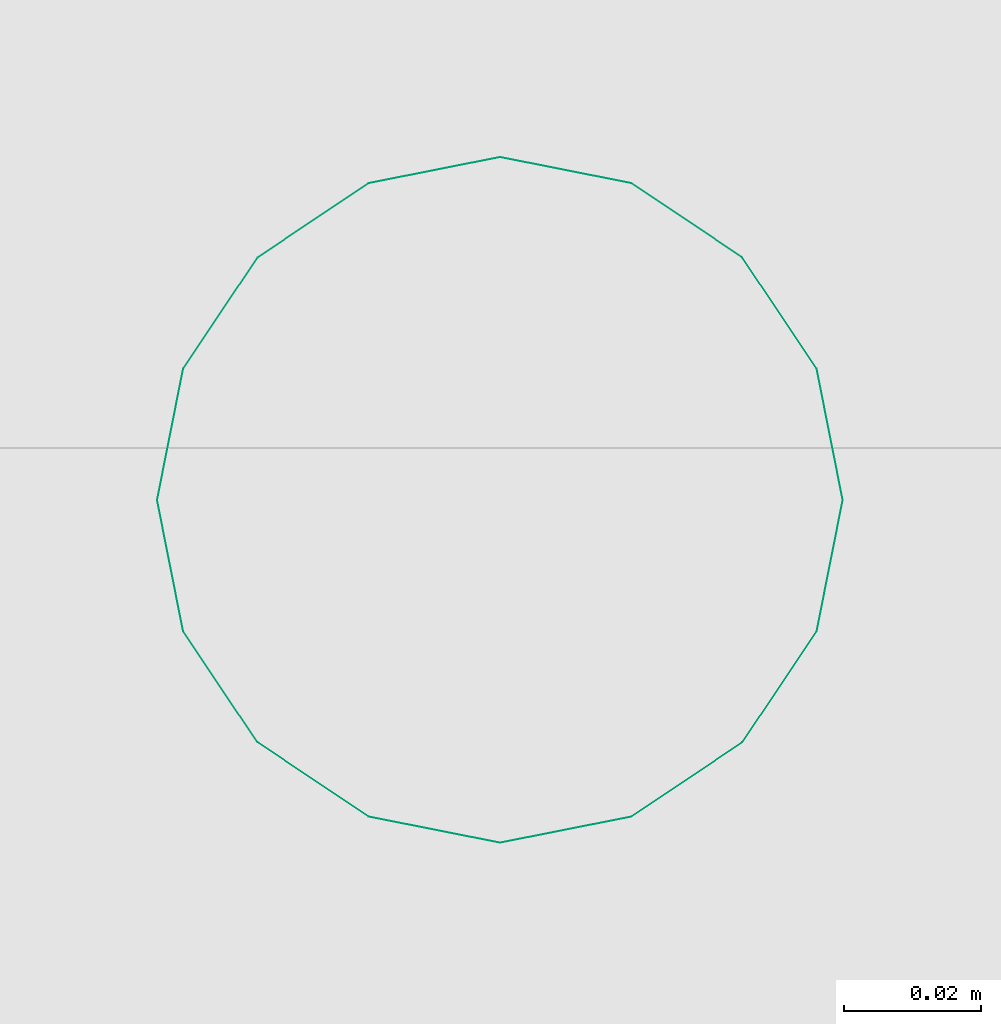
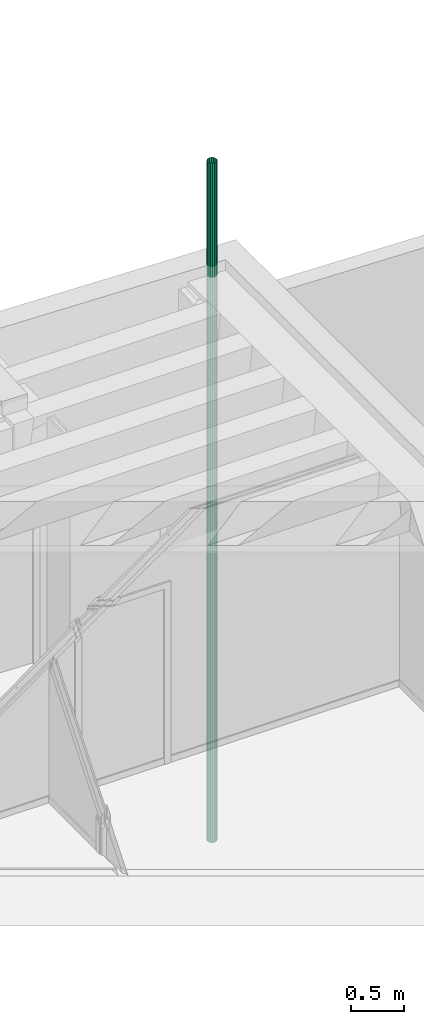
# One storey, part 69 of 106: 1 flow segment.
"""IFC2X3 building model written with IfcOpenShell, lengths in metres."""

from ifc_helpers import new_model, entity, si_unit, converted_unit, derived_unit, money_unit, direction, frame, origin_with_axes, place, context, subcontext, project, spatial, faceted_brep, material, type_object, element, save


model = new_model("IFC2X3")

# Units and contexts
model_context = context("Model", 3, precision=1e-05, world=origin_with_axes(), true_north=direction((0.0, 1.0)))
body_context = subcontext(model_context, "Body", "Model", "MODEL_VIEW", scale=1.0)
ifc_project = project(units=[si_unit("LENGTHUNIT", "METRE"), si_unit("AREAUNIT", "SQUARE_METRE"), si_unit("VOLUMEUNIT", "CUBIC_METRE"), si_unit("ABSORBEDDOSEUNIT", "GRAY"), si_unit("AMOUNTOFSUBSTANCEUNIT", "MOLE"), si_unit("DOSEEQUIVALENTUNIT", "SIEVERT"), si_unit("ELECTRICCAPACITANCEUNIT", "FARAD"), si_unit("ELECTRICCHARGEUNIT", "COULOMB"), si_unit("ELECTRICCONDUCTANCEUNIT", "SIEMENS"), si_unit("ELECTRICCURRENTUNIT", "AMPERE"), si_unit("ELECTRICRESISTANCEUNIT", "OHM"), si_unit("ELECTRICVOLTAGEUNIT", "VOLT"), si_unit("ENERGYUNIT", "JOULE"), si_unit("FORCEUNIT", "NEWTON"), si_unit("FREQUENCYUNIT", "HERTZ"), si_unit("ILLUMINANCEUNIT", "LUX"), si_unit("INDUCTANCEUNIT", "HENRY"), si_unit("LUMINOUSFLUXUNIT", "LUMEN"), si_unit("LUMINOUSINTENSITYUNIT", "CANDELA"), si_unit("MAGNETICFLUXDENSITYUNIT", "TESLA"), si_unit("MAGNETICFLUXUNIT", "WEBER"), si_unit("MASSUNIT", "GRAM"), converted_unit("PLANEANGLEUNIT", "degree", entity("IfcReal", 0.0174532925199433), si_unit("PLANEANGLEUNIT", "RADIAN"), dimensions=[0, 0, 0, 0, 0, 0, 0]), si_unit("POWERUNIT", "WATT"), si_unit("PRESSUREUNIT", "PASCAL"), si_unit("RADIOACTIVITYUNIT", "BECQUEREL"), si_unit("SOLIDANGLEUNIT", "STERADIAN"), si_unit("THERMODYNAMICTEMPERATUREUNIT", "KELVIN"), si_unit("TIMEUNIT", "SECOND"), derived_unit("ACCELERATIONUNIT", [(si_unit("LENGTHUNIT", "METRE"), 1), (si_unit("TIMEUNIT", "SECOND"), -2)]), derived_unit("ANGULARVELOCITYUNIT", [(converted_unit("PLANEANGLEUNIT", "degree", entity("IfcReal", 0.0174532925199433), si_unit("PLANEANGLEUNIT", "RADIAN"), dimensions=[0, 0, 0, 0, 0, 0, 0]), 1), (si_unit("TIMEUNIT", "SECOND"), -1)]), derived_unit("CURVATUREUNIT", [(converted_unit("PLANEANGLEUNIT", "degree", entity("IfcReal", 0.0174532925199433), si_unit("PLANEANGLEUNIT", "RADIAN"), dimensions=[0, 0, 0, 0, 0, 0, 0]), 1), (si_unit("LENGTHUNIT", "METRE"), -1)]), derived_unit("DYNAMICVISCOSITYUNIT", [(si_unit("PRESSUREUNIT", "PASCAL"), 1), (si_unit("TIMEUNIT", "SECOND"), 1)]), derived_unit("HEATFLUXDENSITYUNIT", [(si_unit("POWERUNIT", "WATT"), 1), (si_unit("LENGTHUNIT", "METRE"), -2)]), derived_unit("HEATINGVALUEUNIT", [(si_unit("ENERGYUNIT", "JOULE"), 1), (si_unit("MASSUNIT", "GRAM"), -1)]), derived_unit("INTEGERCOUNTRATEUNIT", [(si_unit("TIMEUNIT", "SECOND"), -1)]), derived_unit("IONCONCENTRATIONUNIT", [(si_unit("MASSUNIT", "GRAM"), 1), (si_unit("VOLUMEUNIT", "CUBIC_METRE"), -1)]), derived_unit("ISOTHERMALMOISTURECAPACITYUNIT", [(si_unit("VOLUMEUNIT", "CUBIC_METRE"), 1), (si_unit("MASSUNIT", "GRAM"), -1)]), derived_unit("KINEMATICVISCOSITYUNIT", [(si_unit("AREAUNIT", "SQUARE_METRE"), 1), (si_unit("TIMEUNIT", "SECOND"), -1)]), derived_unit("LINEARFORCEUNIT", [(si_unit("FORCEUNIT", "NEWTON"), 1), (si_unit("LENGTHUNIT", "METRE"), -1)]), derived_unit("LINEARMOMENTUNIT", [(si_unit("FORCEUNIT", "NEWTON"), 1), (si_unit("LENGTHUNIT", "METRE"), -1)]), derived_unit("LINEARSTIFFNESSUNIT", [(si_unit("FORCEUNIT", "NEWTON"), 1), (si_unit("LENGTHUNIT", "METRE"), -1)]), derived_unit("LINEARVELOCITYUNIT", [(si_unit("LENGTHUNIT", "METRE"), 1), (si_unit("TIMEUNIT", "SECOND"), -1)]), derived_unit("LUMINOUSINTENSITYDISTRIBUTIONUNIT", [(si_unit("LUMINOUSINTENSITYUNIT", "CANDELA"), 1), (si_unit("LUMINOUSFLUXUNIT", "LUMEN"), -1)]), derived_unit("MASSDENSITYUNIT", [(si_unit("MASSUNIT", "GRAM"), 1), (si_unit("VOLUMEUNIT", "CUBIC_METRE"), -1)]), derived_unit("MASSFLOWRATEUNIT", [(si_unit("MASSUNIT", "GRAM"), 1), (si_unit("TIMEUNIT", "SECOND"), -1)]), derived_unit("MASSPERLENGTHUNIT", [(si_unit("MASSUNIT", "GRAM"), 1), (si_unit("LENGTHUNIT", "METRE"), -1)]), derived_unit("MODULUSOFELASTICITYUNIT", [(si_unit("FORCEUNIT", "NEWTON"), 1), (si_unit("AREAUNIT", "SQUARE_METRE"), -1)]), derived_unit("MODULUSOFLINEARSUBGRADEREACTIONUNIT", [(si_unit("FORCEUNIT", "NEWTON"), 1), (si_unit("LENGTHUNIT", "METRE"), -2)]), derived_unit("MODULUSOFROTATIONALSUBGRADEREACTIONUNIT", [(si_unit("FORCEUNIT", "NEWTON"), 1), (si_unit("LENGTHUNIT", "METRE"), 1)]), derived_unit("MODULUSOFSUBGRADEREACTIONUNIT", [(si_unit("FORCEUNIT", "NEWTON"), 1), (si_unit("VOLUMEUNIT", "CUBIC_METRE"), -1)]), derived_unit("MOISTUREDIFFUSIVITYUNIT", [(si_unit("VOLUMEUNIT", "CUBIC_METRE"), 1), (si_unit("TIMEUNIT", "SECOND"), -1)]), derived_unit("MOLECULARWEIGHTUNIT", [(si_unit("MASSUNIT", "GRAM"), 1), (si_unit("AMOUNTOFSUBSTANCEUNIT", "MOLE"), -1)]), derived_unit("PLANARFORCEUNIT", [(si_unit("FORCEUNIT", "NEWTON"), 1), (si_unit("LENGTHUNIT", "METRE"), -2)]), derived_unit("ROTATIONALFREQUENCYUNIT", [(si_unit("TIMEUNIT", "SECOND"), -1)]), derived_unit("ROTATIONALMASSUNIT", [(si_unit("MASSUNIT", "GRAM"), 1), (si_unit("LENGTHUNIT", "METRE"), 2)]), derived_unit("ROTATIONALSTIFFNESSUNIT", [(si_unit("FORCEUNIT", "NEWTON"), 1), (si_unit("LENGTHUNIT", "METRE"), 1), (converted_unit("PLANEANGLEUNIT", "degree", entity("IfcReal", 0.0174532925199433), si_unit("PLANEANGLEUNIT", "RADIAN"), dimensions=[0, 0, 0, 0, 0, 0, 0]), -1)]), derived_unit("SECTIONAREAINTEGRALUNIT", [(si_unit("LENGTHUNIT", "METRE"), 5)]), derived_unit("SECTIONMODULUSUNIT", [(si_unit("LENGTHUNIT", "METRE"), 3)]), derived_unit("SHEARMODULUSUNIT", [(si_unit("FORCEUNIT", "NEWTON"), 1), (si_unit("AREAUNIT", "SQUARE_METRE"), -1)]), derived_unit("SOUNDPOWERUNIT", [(si_unit("ENERGYUNIT", "JOULE"), 1), (si_unit("TIMEUNIT", "SECOND"), -1)]), derived_unit("SPECIFICHEATCAPACITYUNIT", [(si_unit("FORCEUNIT", "NEWTON"), 1), (si_unit("MASSUNIT", "GRAM"), -1), (si_unit("THERMODYNAMICTEMPERATUREUNIT", "KELVIN"), -1)]), derived_unit("TEMPERATUREGRADIENTUNIT", [(si_unit("THERMODYNAMICTEMPERATUREUNIT", "KELVIN"), 1), (si_unit("LENGTHUNIT", "METRE"), -1)]), derived_unit("THERMALADMITTANCEUNIT", [(si_unit("POWERUNIT", "WATT"), 1), (si_unit("AREAUNIT", "SQUARE_METRE"), -1), (si_unit("THERMODYNAMICTEMPERATUREUNIT", "KELVIN"), -1)]), derived_unit("THERMALCONDUCTANCEUNIT", [(si_unit("POWERUNIT", "WATT"), 1), (si_unit("LENGTHUNIT", "METRE"), -1), (si_unit("THERMODYNAMICTEMPERATUREUNIT", "KELVIN"), -1)]), derived_unit("THERMALEXPANSIONCOEFFICIENTUNIT", [(si_unit("THERMODYNAMICTEMPERATUREUNIT", "KELVIN"), -1)]), derived_unit("THERMALRESISTANCEUNIT", [(si_unit("AREAUNIT", "SQUARE_METRE"), 1), (si_unit("POWERUNIT", "WATT"), -1)]), derived_unit("THERMALTRANSMITTANCEUNIT", [(si_unit("POWERUNIT", "WATT"), 1), (si_unit("AREAUNIT", "SQUARE_METRE"), -1), (si_unit("THERMODYNAMICTEMPERATUREUNIT", "KELVIN"), -1)]), derived_unit("TORQUEUNIT", [(si_unit("FORCEUNIT", "NEWTON"), 1), (si_unit("LENGTHUNIT", "METRE"), 1)]), derived_unit("VAPORPERMEABILITYUNIT", [(si_unit("MASSUNIT", "GRAM"), 1), (si_unit("TIMEUNIT", "SECOND"), -1)]), derived_unit("VOLUMETRICFLOWRATEUNIT", [(si_unit("VOLUMEUNIT", "CUBIC_METRE"), 1), (si_unit("TIMEUNIT", "SECOND"), -1)]), derived_unit("WARPINGCONSTANTUNIT", [(si_unit("LENGTHUNIT", "METRE"), 6)]), derived_unit("WARPINGMOMENTUNIT", [(si_unit("FORCEUNIT", "NEWTON"), 1), (si_unit("LENGTHUNIT", "METRE"), 2)]), money_unit("GBP")], contexts=[model_context])

# Site, building, storey
site_placement = place(None, origin_with_axes())
site = spatial("IfcSite", under=ifc_project, at=site_placement, Name="Site", CompositionType="ELEMENT")
building_placement = place(site_placement, origin_with_axes())
building = spatial("IfcBuilding", under=site, at=building_placement, Name="Building01", CompositionType="ELEMENT")
storey_placement = place(building_placement, origin_with_axes())
storey = spatial("IfcBuildingStorey", under=building, at=storey_placement, Name="GF", CompositionType="ELEMENT", Elevation=0.0)

# Flow segment
ifc_material = material(Name="M_BSUK_ColdWater")
pipe_segment_type = type_object("IfcPipeSegmentType", Name="M-BmpStraightpipe-DefaultPipe", PredefinedType="RIGIDSEGMENT")
flow_segment_placement = place(storey_placement, frame((8.909935, 20.894166, 4.324673), z_axis=(1.0, 0.0, 0.0), x_axis=(0.0, 0.0, -1.0)))
element("IfcFlowSegment", 1, at=flow_segment_placement, inside=storey, type_object=pipe_segment_type, material=ifc_material, Name="M-BmpStraightpipe-DefaultPipe", ObjectType="M-BmpStraightpipe-DefaultPipe", context=body_context, shape_type="Brep", body=[
    faceted_brep([(7.805327, 0.0, -0.05), (0.0, 0.0, -0.05), (0.0, 0.019134, -0.046194), (7.805327, 0.019134, -0.046194), (0.0, 0.035355, -0.035355), (7.805327, 0.035355, -0.035355), (0.0, 0.046194, -0.019134), (7.805327, 0.046194, -0.019134), (0.0, 0.05, 0.0), (7.805327, 0.05, 0.0), (0.0, 0.046194, 0.019134), (7.805327, 0.046194, 0.019134), (0.0, 0.035355, 0.035355), (7.805327, 0.035355, 0.035355), (0.0, 0.019134, 0.046194), (7.805327, 0.019134, 0.046194), (0.0, 0.0, 0.05), (7.805327, 0.0, 0.05), (0.0, -0.019134, 0.046194), (7.805327, -0.019134, 0.046194), (0.0, -0.035355, 0.035355), (7.805327, -0.035355, 0.035355), (0.0, -0.046194, 0.019134), (7.805327, -0.046194, 0.019134), (0.0, -0.05, 0.0), (7.805327, -0.05, 0.0), (0.0, -0.046194, -0.019134), (7.805327, -0.046194, -0.019134), (0.0, -0.035355, -0.035355), (7.805327, -0.035355, -0.035355), (0.0, -0.019134, -0.046194), (7.805327, -0.019134, -0.046194)], [[[0, 1, 2, 3]], [[3, 2, 4, 5]], [[5, 4, 6, 7]], [[7, 6, 8, 9]], [[9, 8, 10, 11]], [[11, 10, 12, 13]], [[13, 12, 14, 15]], [[15, 14, 16, 17]], [[17, 16, 18, 19]], [[19, 18, 20, 21]], [[21, 20, 22, 23]], [[23, 22, 24, 25]], [[25, 24, 26, 27]], [[27, 26, 28, 29]], [[29, 28, 30, 31]], [[31, 30, 1, 0]]]),
])

save(model, "model.ifc")
